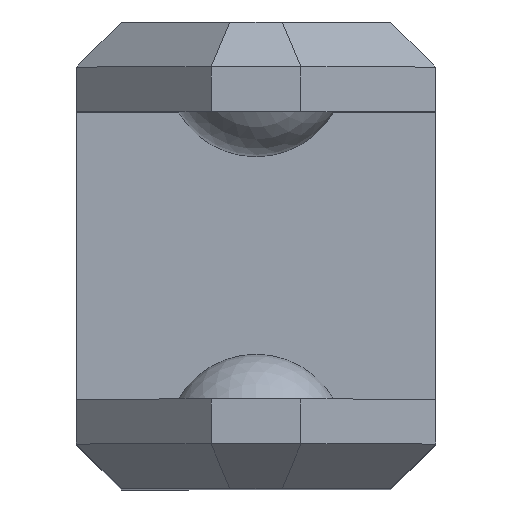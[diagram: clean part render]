
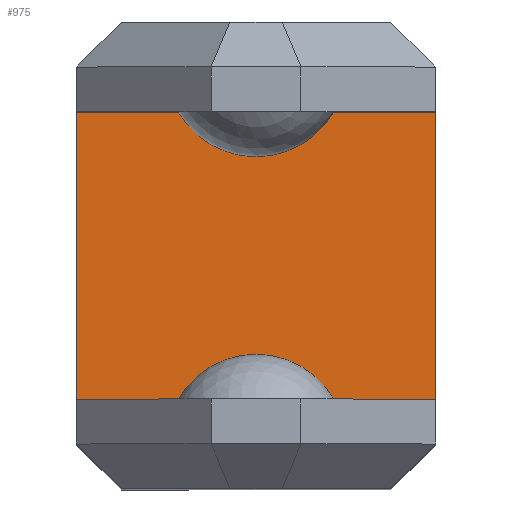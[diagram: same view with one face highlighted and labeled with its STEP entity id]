
A CAD part, top view. The second image highlights one B-rep face of the part: STEP entity #975.
In plain terms, the highlighted planar face has unit normal (0, 0, 1).
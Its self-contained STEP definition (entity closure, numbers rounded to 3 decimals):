
#5 = LINE ( 'NONE', #562, #509 ) ;
#56 = DIRECTION ( 'NONE',  ( 0., -1., 0. ) ) ;
#89 = VERTEX_POINT ( 'NONE', #597 ) ;
#97 = VECTOR ( 'NONE', #453, 1000. ) ;
#112 = ORIENTED_EDGE ( 'NONE', *, *, #464, .F. ) ;
#129 = LINE ( 'NONE', #444, #97 ) ;
#140 = CARTESIAN_POINT ( 'NONE',  ( 2., 8.257, 5. ) ) ;
#174 = LINE ( 'NONE', #405, #961 ) ;
#226 = LINE ( 'NONE', #140, #880 ) ;
#261 = EDGE_LOOP ( 'NONE', ( #937, #112, #930, #715 ) ) ;
#281 = DIRECTION ( 'NONE',  ( 1., 0., 0. ) ) ;
#358 = VERTEX_POINT ( 'NONE', #693 ) ;
#367 = PLANE ( 'NONE',  #459 ) ;
#372 = DIRECTION ( 'NONE',  ( 0., 0., 1. ) ) ;
#405 = CARTESIAN_POINT ( 'NONE',  ( 2., 1.6, 5. ) ) ;
#418 = CARTESIAN_POINT ( 'NONE',  ( 2., -1.6, 5. ) ) ;
#440 = FACE_OUTER_BOUND ( 'NONE', #261, .T. ) ;
#444 = CARTESIAN_POINT ( 'NONE',  ( -2., 8.257, 5. ) ) ;
#453 = DIRECTION ( 'NONE',  ( 0., -1., 0. ) ) ;
#459 = AXIS2_PLACEMENT_3D ( 'NONE', #670, #372, #281 ) ;
#464 = EDGE_CURVE ( 'NONE', #892, #89, #5, .T. ) ;
#509 = VECTOR ( 'NONE', #857, 1000. ) ;
#562 = CARTESIAN_POINT ( 'NONE',  ( 2., -1.6, 5. ) ) ;
#584 = VERTEX_POINT ( 'NONE', #968 ) ;
#597 = CARTESIAN_POINT ( 'NONE',  ( -2., -1.6, 5. ) ) ;
#655 = EDGE_CURVE ( 'NONE', #358, #892, #226, .T. ) ;
#670 = CARTESIAN_POINT ( 'NONE',  ( 2., 8.257, 5. ) ) ;
#691 = EDGE_CURVE ( 'NONE', #584, #89, #129, .T. ) ;
#693 = CARTESIAN_POINT ( 'NONE',  ( 2., 1.6, 5. ) ) ;
#704 = DIRECTION ( 'NONE',  ( 1., 0., 0. ) ) ;
#715 = ORIENTED_EDGE ( 'NONE', *, *, #751, .F. ) ;
#751 = EDGE_CURVE ( 'NONE', #584, #358, #174, .T. ) ;
#857 = DIRECTION ( 'NONE',  ( -1., 0., 0. ) ) ;
#880 = VECTOR ( 'NONE', #56, 1000. ) ;
#892 = VERTEX_POINT ( 'NONE', #418 ) ;
#930 = ORIENTED_EDGE ( 'NONE', *, *, #655, .F. ) ;
#937 = ORIENTED_EDGE ( 'NONE', *, *, #691, .T. ) ;
#961 = VECTOR ( 'NONE', #704, 1000. ) ;
#968 = CARTESIAN_POINT ( 'NONE',  ( -2., 1.6, 5. ) ) ;
#975 = ADVANCED_FACE ( 'NONE', ( #440 ), #367, .T. ) ;
